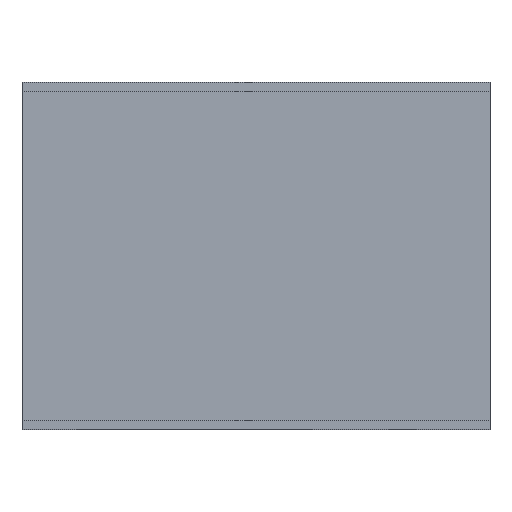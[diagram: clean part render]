
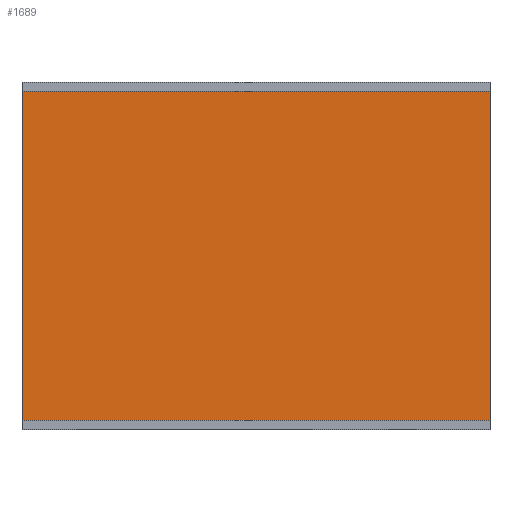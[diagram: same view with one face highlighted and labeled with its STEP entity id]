
A CAD part, top view. The second image highlights one B-rep face of the part: STEP entity #1689.
In plain terms, the highlighted planar face has unit normal (0, 0, 1).
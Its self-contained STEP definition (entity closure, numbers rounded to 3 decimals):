
#62 = VERTEX_POINT('',#63);
#63 = CARTESIAN_POINT('',(0.,3.,100.));
#70 = PLANE('',#71);
#71 = AXIS2_PLACEMENT_3D('',#72,#73,#74);
#72 = CARTESIAN_POINT('',(0.,3.,0.));
#73 = DIRECTION('',(1.,0.,0.));
#74 = DIRECTION('',(0.,0.,1.));
#82 = PLANE('',#83);
#83 = AXIS2_PLACEMENT_3D('',#84,#85,#86);
#84 = CARTESIAN_POINT('',(0.,3.,0.));
#85 = DIRECTION('',(0.,1.,0.));
#86 = DIRECTION('',(0.,0.,1.));
#123 = VERTEX_POINT('',#124);
#124 = CARTESIAN_POINT('',(0.,112.,100.));
#138 = PLANE('',#139);
#139 = AXIS2_PLACEMENT_3D('',#140,#141,#142);
#140 = CARTESIAN_POINT('',(0.,112.,0.));
#141 = DIRECTION('',(0.,1.,0.));
#142 = DIRECTION('',(0.,0.,1.));
#150 = EDGE_CURVE('',#62,#123,#151,.T.);
#151 = SURFACE_CURVE('',#152,(#156,#163),.PCURVE_S1.);
#152 = LINE('',#153,#154);
#153 = CARTESIAN_POINT('',(0.,3.,100.));
#154 = VECTOR('',#155,1.);
#155 = DIRECTION('',(0.,1.,0.));
#156 = PCURVE('',#70,#157);
#157 = DEFINITIONAL_REPRESENTATION('',(#158),#162);
#158 = LINE('',#159,#160);
#159 = CARTESIAN_POINT('',(100.,0.));
#160 = VECTOR('',#161,1.);
#161 = DIRECTION('',(0.,-1.));
#162 = ( GEOMETRIC_REPRESENTATION_CONTEXT(2) 
PARAMETRIC_REPRESENTATION_CONTEXT() REPRESENTATION_CONTEXT('2D SPACE',''
  ) );
#163 = PCURVE('',#164,#169);
#164 = PLANE('',#165);
#165 = AXIS2_PLACEMENT_3D('',#166,#167,#168);
#166 = CARTESIAN_POINT('',(0.,3.,100.));
#167 = DIRECTION('',(0.,0.,1.));
#168 = DIRECTION('',(1.,0.,0.));
#169 = DEFINITIONAL_REPRESENTATION('',(#170),#174);
#170 = LINE('',#171,#172);
#171 = CARTESIAN_POINT('',(0.,0.));
#172 = VECTOR('',#173,1.);
#173 = DIRECTION('',(0.,1.));
#174 = ( GEOMETRIC_REPRESENTATION_CONTEXT(2) 
PARAMETRIC_REPRESENTATION_CONTEXT() REPRESENTATION_CONTEXT('2D SPACE',''
  ) );
#1535 = EDGE_CURVE('',#62,#1536,#1538,.T.);
#1536 = VERTEX_POINT('',#1537);
#1537 = CARTESIAN_POINT('',(155.,3.,100.));
#1538 = SURFACE_CURVE('',#1539,(#1543,#1550),.PCURVE_S1.);
#1539 = LINE('',#1540,#1541);
#1540 = CARTESIAN_POINT('',(0.,3.,100.));
#1541 = VECTOR('',#1542,1.);
#1542 = DIRECTION('',(1.,0.,0.));
#1543 = PCURVE('',#82,#1544);
#1544 = DEFINITIONAL_REPRESENTATION('',(#1545),#1549);
#1545 = LINE('',#1546,#1547);
#1546 = CARTESIAN_POINT('',(100.,0.));
#1547 = VECTOR('',#1548,1.);
#1548 = DIRECTION('',(0.,1.));
#1549 = ( GEOMETRIC_REPRESENTATION_CONTEXT(2) 
PARAMETRIC_REPRESENTATION_CONTEXT() REPRESENTATION_CONTEXT('2D SPACE',''
  ) );
#1550 = PCURVE('',#164,#1551);
#1551 = DEFINITIONAL_REPRESENTATION('',(#1552),#1556);
#1552 = LINE('',#1553,#1554);
#1553 = CARTESIAN_POINT('',(0.,0.));
#1554 = VECTOR('',#1555,1.);
#1555 = DIRECTION('',(1.,0.));
#1556 = ( GEOMETRIC_REPRESENTATION_CONTEXT(2) 
PARAMETRIC_REPRESENTATION_CONTEXT() REPRESENTATION_CONTEXT('2D SPACE',''
  ) );
#1572 = PLANE('',#1573);
#1573 = AXIS2_PLACEMENT_3D('',#1574,#1575,#1576);
#1574 = CARTESIAN_POINT('',(155.,3.,0.));
#1575 = DIRECTION('',(1.,0.,0.));
#1576 = DIRECTION('',(0.,0.,1.));
#1689 = ADVANCED_FACE('',(#1690),#164,.T.);
#1690 = FACE_BOUND('',#1691,.T.);
#1691 = EDGE_LOOP('',(#1692,#1693,#1694,#1717));
#1692 = ORIENTED_EDGE('',*,*,#150,.F.);
#1693 = ORIENTED_EDGE('',*,*,#1535,.T.);
#1694 = ORIENTED_EDGE('',*,*,#1695,.T.);
#1695 = EDGE_CURVE('',#1536,#1696,#1698,.T.);
#1696 = VERTEX_POINT('',#1697);
#1697 = CARTESIAN_POINT('',(155.,112.,100.));
#1698 = SURFACE_CURVE('',#1699,(#1703,#1710),.PCURVE_S1.);
#1699 = LINE('',#1700,#1701);
#1700 = CARTESIAN_POINT('',(155.,3.,100.));
#1701 = VECTOR('',#1702,1.);
#1702 = DIRECTION('',(0.,1.,0.));
#1703 = PCURVE('',#164,#1704);
#1704 = DEFINITIONAL_REPRESENTATION('',(#1705),#1709);
#1705 = LINE('',#1706,#1707);
#1706 = CARTESIAN_POINT('',(155.,0.));
#1707 = VECTOR('',#1708,1.);
#1708 = DIRECTION('',(0.,1.));
#1709 = ( GEOMETRIC_REPRESENTATION_CONTEXT(2) 
PARAMETRIC_REPRESENTATION_CONTEXT() REPRESENTATION_CONTEXT('2D SPACE',''
  ) );
#1710 = PCURVE('',#1572,#1711);
#1711 = DEFINITIONAL_REPRESENTATION('',(#1712),#1716);
#1712 = LINE('',#1713,#1714);
#1713 = CARTESIAN_POINT('',(100.,0.));
#1714 = VECTOR('',#1715,1.);
#1715 = DIRECTION('',(0.,-1.));
#1716 = ( GEOMETRIC_REPRESENTATION_CONTEXT(2) 
PARAMETRIC_REPRESENTATION_CONTEXT() REPRESENTATION_CONTEXT('2D SPACE',''
  ) );
#1717 = ORIENTED_EDGE('',*,*,#1718,.F.);
#1718 = EDGE_CURVE('',#123,#1696,#1719,.T.);
#1719 = SURFACE_CURVE('',#1720,(#1724,#1731),.PCURVE_S1.);
#1720 = LINE('',#1721,#1722);
#1721 = CARTESIAN_POINT('',(0.,112.,100.));
#1722 = VECTOR('',#1723,1.);
#1723 = DIRECTION('',(1.,0.,0.));
#1724 = PCURVE('',#164,#1725);
#1725 = DEFINITIONAL_REPRESENTATION('',(#1726),#1730);
#1726 = LINE('',#1727,#1728);
#1727 = CARTESIAN_POINT('',(0.,109.));
#1728 = VECTOR('',#1729,1.);
#1729 = DIRECTION('',(1.,0.));
#1730 = ( GEOMETRIC_REPRESENTATION_CONTEXT(2) 
PARAMETRIC_REPRESENTATION_CONTEXT() REPRESENTATION_CONTEXT('2D SPACE',''
  ) );
#1731 = PCURVE('',#138,#1732);
#1732 = DEFINITIONAL_REPRESENTATION('',(#1733),#1737);
#1733 = LINE('',#1734,#1735);
#1734 = CARTESIAN_POINT('',(100.,0.));
#1735 = VECTOR('',#1736,1.);
#1736 = DIRECTION('',(0.,1.));
#1737 = ( GEOMETRIC_REPRESENTATION_CONTEXT(2) 
PARAMETRIC_REPRESENTATION_CONTEXT() REPRESENTATION_CONTEXT('2D SPACE',''
  ) );
